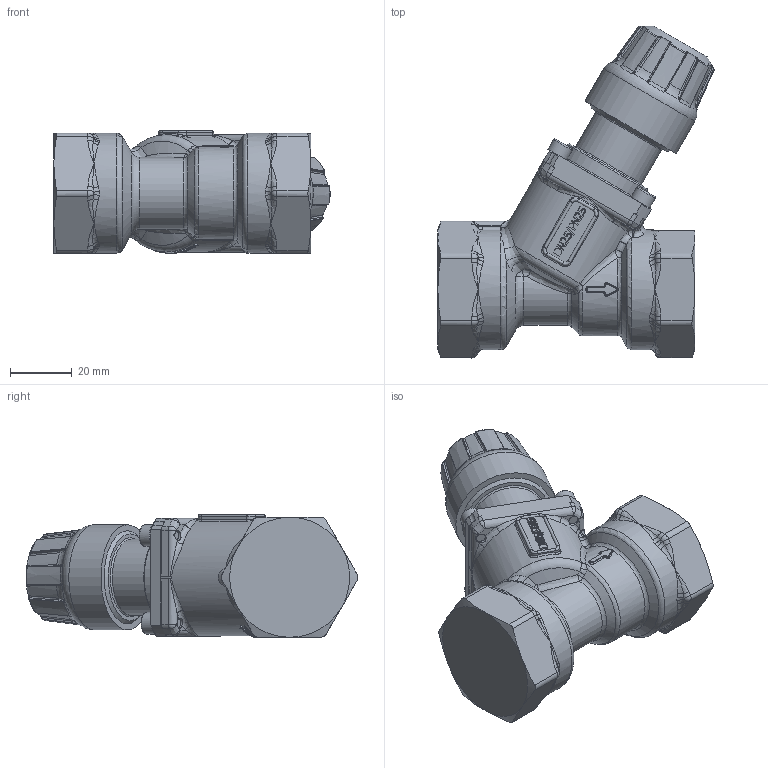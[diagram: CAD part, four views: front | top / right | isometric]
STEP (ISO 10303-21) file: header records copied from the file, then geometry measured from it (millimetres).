
FILE_DESCRIPTION(/* description */ ('Dansk beskrivelse'),/* implementation_level */ '2;1');
FILE_NAME(/* name */ 'C:\Users\jjo\Desktop\Siemens Cad modeller\53-1519.stp',/* time_stamp */ '2015-05-05T13:02:35+02:00',/* author */ ('jjo'),/* organization */ (''),/* preprocessor_version */ 'ST-DEVELOPER v15.2',/* originating_system */ 'Autodesk Inventor 2014',/* authorisation */ '0 mm^3');
FILE_SCHEMA (('AUTOMOTIVE_DESIGN { 1 0 10303 214 3 1 1 }'));
Products named in the file (1): 53-1319_Shrinkwrap_1
Bounding box: 89.19 x 107.17 x 39.58 mm (x, y, z)
Volume: 148226.5 mm3; surface area: 21903.3 mm2
Topology: 1 solids, 1 shells, 989 faces, 2542 edges, 1504 vertices
Faces by surface type: bspline 540, plane 235, cylinder 109, cone 45, torus 38, sphere 22
Full cylindrical faces by diameter (mm): 3.242 x4, 7 x4, 24.5 x1, 30 x1, 34 x1, 38.75 x1
Entity records: 82353 total; most frequent: CARTESIAN_POINT 61681, ORIENTED_EDGE 4842, DIRECTION 2753, EDGE_CURVE 2421, VERTEX_POINT 1489, B_SPLINE_CURVE_WITH_KNOTS 1151, AXIS2_PLACEMENT_3D 1067, EDGE_LOOP 1044
